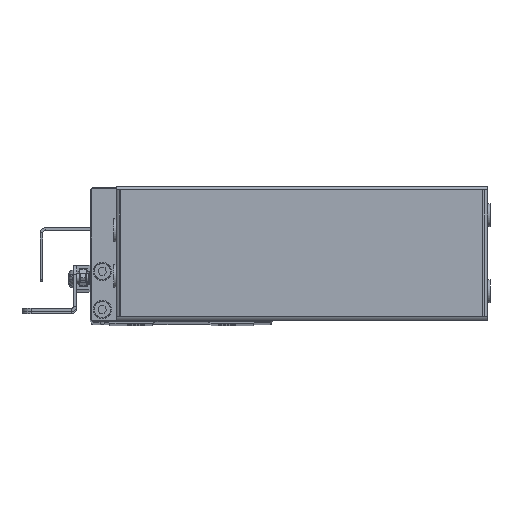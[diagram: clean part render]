
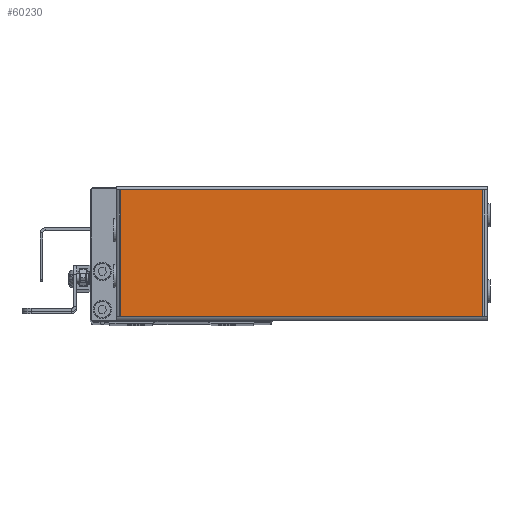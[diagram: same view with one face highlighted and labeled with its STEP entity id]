
A CAD part, top view. The second image highlights one B-rep face of the part: STEP entity #60230.
In plain terms, the highlighted planar face has unit normal (0, 0, 1) as drawn and (0, 0, -1) by its records, which use the part's own axes.
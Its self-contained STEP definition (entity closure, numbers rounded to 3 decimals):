
#847 = VECTOR ( 'NONE', #13667, 1000. ) ;
#864 = VERTEX_POINT ( 'NONE', #19824 ) ;
#1515 = CARTESIAN_POINT ( 'NONE',  ( 1.5, 42.7, -1. ) ) ;
#1715 = LINE ( 'NONE', #37900, #45232 ) ;
#2306 = EDGE_CURVE ( 'NONE', #42422, #23166, #13388, .T. ) ;
#9652 = DIRECTION ( 'NONE',  ( -1., 0., 0. ) ) ;
#9684 = EDGE_LOOP ( 'NONE', ( #14242, #60196, #35782, #22722 ) ) ;
#10418 = VECTOR ( 'NONE', #42732, 1000. ) ;
#12463 = DIRECTION ( 'NONE',  ( 0., 0., -1. ) ) ;
#13388 = LINE ( 'NONE', #22760, #847 ) ;
#13667 = DIRECTION ( 'NONE',  ( 0., 1., 0. ) ) ;
#13773 = CARTESIAN_POINT ( 'NONE',  ( 1.5, 1.3, -1. ) ) ;
#14242 = ORIENTED_EDGE ( 'NONE', *, *, #60412, .T. ) ;
#17792 = AXIS2_PLACEMENT_3D ( 'NONE', #36393, #12463, #50168 ) ;
#19824 = CARTESIAN_POINT ( 'NONE',  ( 120.5, 42.7, -1. ) ) ;
#20621 = LINE ( 'NONE', #28605, #55283 ) ;
#22153 = PLANE ( 'NONE',  #17792 ) ;
#22722 = ORIENTED_EDGE ( 'NONE', *, *, #2306, .T. ) ;
#22760 = CARTESIAN_POINT ( 'NONE',  ( 1.5, 1.3, -1. ) ) ;
#23166 = VERTEX_POINT ( 'NONE', #1515 ) ;
#28356 = EDGE_CURVE ( 'NONE', #864, #45880, #20621, .T. ) ;
#28605 = CARTESIAN_POINT ( 'NONE',  ( 120.5, 42.7, -1. ) ) ;
#32412 = CARTESIAN_POINT ( 'NONE',  ( 120.5, 1.3, -1. ) ) ;
#32895 = DIRECTION ( 'NONE',  ( 0., -1., 0. ) ) ;
#35782 = ORIENTED_EDGE ( 'NONE', *, *, #39143, .T. ) ;
#36393 = CARTESIAN_POINT ( 'NONE',  ( 0., 0., -1. ) ) ;
#37900 = CARTESIAN_POINT ( 'NONE',  ( 122., 1.3, -1. ) ) ;
#39143 = EDGE_CURVE ( 'NONE', #45880, #42422, #1715, .T. ) ;
#42422 = VERTEX_POINT ( 'NONE', #13773 ) ;
#42732 = DIRECTION ( 'NONE',  ( 1., 0., 0. ) ) ;
#42921 = CARTESIAN_POINT ( 'NONE',  ( 0., 42.7, -1. ) ) ;
#45232 = VECTOR ( 'NONE', #9652, 1000. ) ;
#45880 = VERTEX_POINT ( 'NONE', #32412 ) ;
#46552 = LINE ( 'NONE', #42921, #10418 ) ;
#50168 = DIRECTION ( 'NONE',  ( -1., 0., 0. ) ) ;
#55283 = VECTOR ( 'NONE', #32895, 1000. ) ;
#58422 = FACE_OUTER_BOUND ( 'NONE', #9684, .T. ) ;
#60196 = ORIENTED_EDGE ( 'NONE', *, *, #28356, .T. ) ;
#60230 = ADVANCED_FACE ( 'NONE', ( #58422 ), #22153, .T. ) ;
#60412 = EDGE_CURVE ( 'NONE', #23166, #864, #46552, .T. ) ;
